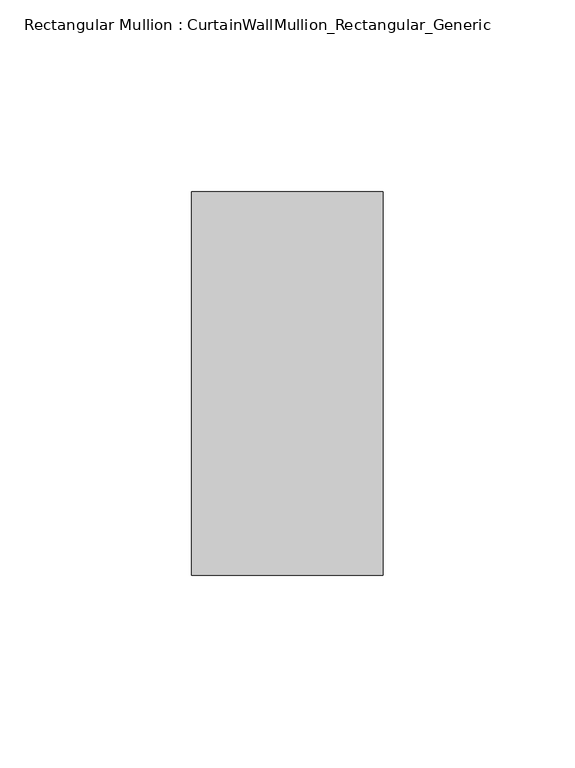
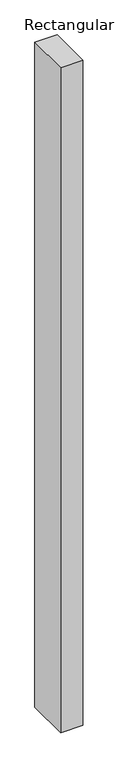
"""IFC4 building model written with IfcOpenShell, lengths in millimetres: member geometry, Rectangular Mullion : CurtainWallMullion_Rectangular_Generic."""

import ifcopenshell
import ifcopenshell.guid

model = None  # the IFC model being written
_history = None  # IfcOwnerHistory: only IFC2X3 demands one
_inside = {}  # id of a spatial element -> (the spatial element, [elements in it])
_under = {}  # id of a project, library or spatial element -> (it, [spatial elements below it])
_declared = {}  # id of a project -> (the project, [libraries it declares])
_typed = {}  # id of a type object -> (the type object, [elements of that type])
_made_of = {}  # id of a material, layer set ... -> (it, [elements and type objects made of it])


def new_model(schema):
    """Start an empty IFC model of exactly this schema.

    Asked for "IFC4X3", IfcOpenShell would pick the latest addendum, in which some entities
    have other attributes; the version numbers below select the first issue.
    IFC2X3 requires an IfcOwnerHistory on every rooted entity: one is made here for all.
    """
    global model, _history
    if schema == "IFC4X3":
        model = ifcopenshell.file(schema_version=(4, 3, 0, 0))
    else:
        model = ifcopenshell.file(schema=schema)
    _inside.clear()
    _under.clear()
    _declared.clear()
    _typed.clear()
    _made_of.clear()
    _history = None
    if model.schema == "IFC2X3":
        org = make("IfcOrganization", Name="unknown")
        user = make(
            "IfcPersonAndOrganization",
            ThePerson=make("IfcPerson", FamilyName="unknown"),
            TheOrganization=org,
        )
        app = make(
            "IfcApplication",
            ApplicationDeveloper=org,
            Version="unknown",
            ApplicationFullName="unknown",
            ApplicationIdentifier="unknown",
        )
        _history = make(
            "IfcOwnerHistory",
            OwningUser=user,
            OwningApplication=app,
            ChangeAction="ADDED",
            CreationDate=0,
        )
    return model


def make(cls, **values):
    """One entity of the class cls with the attributes given. An attribute that is None is left unset."""
    return model.create_entity(
        cls, **{name: value for name, value in values.items() if value is not None}
    )


def rooted(cls, **values):
    """An entity with a GlobalId (a new one), such as an element, a storey or a relation."""
    return make(cls, GlobalId=ifcopenshell.guid.new(), OwnerHistory=_history, **values)


def si_unit(unit_type, name, prefix=None):
    """IfcSIUnit, for example si_unit("LENGTHUNIT", "METRE", prefix="MILLI")."""
    return make("IfcSIUnit", UnitType=unit_type, Prefix=prefix, Name=name)


def assignment(units):
    """IfcUnitAssignment: the units of a project."""
    return None if units is None else make("IfcUnitAssignment", Units=units)


def point(xyz):
    """IfcCartesianPoint."""
    return None if xyz is None else make("IfcCartesianPoint", Coordinates=xyz)


def direction(xyz):
    """IfcDirection."""
    return None if xyz is None else make("IfcDirection", DirectionRatios=xyz)


def frame(location, z_axis=None, x_axis=None):
    """IfcAxis2Placement3D, a coordinate frame: its origin and axes. An axis left out is left unset."""
    return make(
        "IfcAxis2Placement3D",
        Location=point(location),
        Axis=direction(z_axis),
        RefDirection=direction(x_axis),
    )


def origin():
    """The frame at (0, 0, 0) with its axes left unset."""
    return frame((0.0, 0.0, 0.0))


def place(relative_to, where):
    """IfcLocalPlacement: puts the frame where relative to a parent placement (None: the world)."""
    return make(
        "IfcLocalPlacement", PlacementRelTo=relative_to, RelativePlacement=where
    )


def context(
    kind, dimensions, precision=None, world=None, true_north=None, identifier=None
):
    """IfcGeometricRepresentationContext, for example the 3D "Model" context."""
    return make(
        "IfcGeometricRepresentationContext",
        ContextIdentifier=identifier,
        ContextType=kind,
        CoordinateSpaceDimension=dimensions,
        Precision=precision,
        WorldCoordinateSystem=world,
        TrueNorth=true_north,
    )


def project(units=None, contexts=None):
    """IfcProject with its units and contexts."""
    return rooted(
        "IfcProject",
        Name="project",
        RepresentationContexts=contexts,
        UnitsInContext=assignment(units),
    )


def spatial(cls, under=None, at=None, **own):
    """A site, building, storey or space (cls), placed at a placement, below another one or the project."""
    s = rooted(cls, ObjectPlacement=at, **own)
    if under is not None:
        _under.setdefault(under.id(), (under, []))[1].append(s)
    return s


def polyline(points):
    """IfcPolyline through the points."""
    return make("IfcPolyline", Points=[point(p) for p in points])


def outline(outer, holes=None, kind="AREA"):
    """IfcArbitraryClosedProfileDef: a profile drawn as a closed curve; with holes, ...WithVoids."""
    if holes is None:
        return make("IfcArbitraryClosedProfileDef", ProfileType=kind, OuterCurve=outer)
    return make(
        "IfcArbitraryProfileDefWithVoids",
        ProfileType=kind,
        OuterCurve=outer,
        InnerCurves=holes,
    )


def extrude(swept, where, along, depth):
    """IfcExtrudedAreaSolid: the profile swept, set in the frame where, extruded along a direction by depth."""
    return make(
        "IfcExtrudedAreaSolid",
        SweptArea=swept,
        Position=where,
        ExtrudedDirection=direction(along),
        Depth=depth,
    )


def shape(context_of_items, identifier, shape_type, items):
    """IfcShapeRepresentation: the items that make up one representation, for example the "Body"."""
    return make(
        "IfcShapeRepresentation",
        ContextOfItems=context_of_items,
        RepresentationIdentifier=identifier,
        RepresentationType=shape_type,
        Items=items,
    )


def source(mapping_origin, context_of_items, identifier, shape_type, items):
    """IfcRepresentationMap: a shape defined once, which mapped items show again and again."""
    return make(
        "IfcRepresentationMap",
        MappingOrigin=mapping_origin,
        MappedRepresentation=shape(context_of_items, identifier, shape_type, items),
    )


def transform(
    local_origin,
    x_axis=None,
    y_axis=None,
    z_axis=None,
    scale=None,
    scale2=None,
    scale3=None,
    uniform=True,
):
    """IfcCartesianTransformationOperator3D, or its non-uniform kind. x_axis, y_axis, z_axis: its Axis1, 2, 3."""
    if uniform:
        return make(
            "IfcCartesianTransformationOperator3D",
            Axis1=direction(x_axis),
            Axis2=direction(y_axis),
            LocalOrigin=point(local_origin),
            Scale=scale,
            Axis3=direction(z_axis),
        )
    return make(
        "IfcCartesianTransformationOperator3DnonUniform",
        Axis1=direction(x_axis),
        Axis2=direction(y_axis),
        LocalOrigin=point(local_origin),
        Scale=scale,
        Axis3=direction(z_axis),
        Scale2=scale2,
        Scale3=scale3,
    )


def mapped(mapping_source, mapping_target):
    """IfcMappedItem: shows the shape of a source again, moved by a transform."""
    return make(
        "IfcMappedItem", MappingSource=mapping_source, MappingTarget=mapping_target
    )


def made_of(thing, what):
    """Note that an element or type object is made of a material, layer set ...; save() writes the relation."""
    if what is not None:
        _made_of.setdefault(what.id(), (what, []))[1].append(thing)
    return thing


def element(
    cls,
    number,
    at=None,
    inside=None,
    cuts=None,
    type_object=None,
    material=None,
    context=None,
    identifier="Body",
    shape_type=None,
    held_by="IfcProductDefinitionShape",
    body=None,
    shapes=None,
    **own,
):
    """One element of the class cls, such as IfcWall. Its Tag is "e" and its number.

    at: its placement. inside: the storey or other place that contains it. cuts: it is an
    opening in that element (IfcRelVoidsElement). A single representation is given by context,
    identifier, shape_type and body (its items); several are given by shapes. held_by: the class
    of the entity that holds the representations. save() writes the other relations.
    """
    e = rooted(cls, Tag="e%d" % number, ObjectPlacement=at, **own)
    if body is not None:
        shapes = [shape(context, identifier, shape_type, body)]
    if shapes is not None:
        e.Representation = make(held_by, Representations=shapes)
    if inside is not None:
        _inside.setdefault(inside.id(), (inside, []))[1].append(e)
    if cuts is not None:
        rooted(
            "IfcRelVoidsElement", RelatingBuildingElement=cuts, RelatedOpeningElement=e
        )
    if type_object is not None:
        _typed.setdefault(type_object.id(), (type_object, []))[1].append(e)
    return made_of(e, material)


def aggregate(whole, parts):
    """IfcRelAggregates: a whole, such as a stair, and the parts it consists of."""
    return rooted("IfcRelAggregates", RelatingObject=whole, RelatedObjects=parts)


def save(model, path):
    """Write the relations noted so far, then the file.

    IfcRelAggregates (storeys below a building ...), IfcRelContainedInSpatialStructure (elements
    in a storey), IfcRelDefinesByType, IfcRelAssociatesMaterial and IfcRelDeclares: one each for
    every whole, place, type object, material and project.
    """
    for whole, parts in _under.values():
        aggregate(whole, parts)
    for where, things in _inside.values():
        rooted(
            "IfcRelContainedInSpatialStructure",
            RelatedElements=things,
            RelatingStructure=where,
        )
    for kind, things in _typed.values():
        rooted("IfcRelDefinesByType", RelatedObjects=things, RelatingType=kind)
    for what, things in _made_of.values():
        rooted("IfcRelAssociatesMaterial", RelatedObjects=things, RelatingMaterial=what)
    for by, libraries in _declared.values():
        rooted("IfcRelDeclares", RelatingContext=by, RelatedDefinitions=libraries)
    model.write(path)


def rectangular_mullion_curtainwallmullion_rectangular_generic_facbbd22(model_context):
    return source(origin(), model_context, "Body", "SweptSolid", [
        extrude(outline(polyline([(0.0, 50.0), (0.0, -50.0), (-50.0, -50.0), (-50.0, 50.0), (0.0, 50.0)])), frame((0.0, 0.0, -1586.111111), z_axis=(0.0, 0.0, 1.0), x_axis=(1.0, 0.0, 0.0)), (0.0, 0.0, 1.0), 1586.111111),
    ])


if __name__ == "__main__":
    model = new_model("IFC4")
    model_context = context("Model", 3, world=origin())
    ifc_project = project(units=[si_unit("LENGTHUNIT", "METRE", prefix="MILLI")], contexts=[model_context])
    site = spatial("IfcSite", under=ifc_project)
    building = spatial("IfcBuilding", under=site)
    placement = place(None, origin())
    rectangular_mullion_curtainwallmullion_rectangular_generic_shape = rectangular_mullion_curtainwallmullion_rectangular_generic_facbbd22(model_context)
    element("IfcMember", 1, ObjectType="Rectangular Mullion : CurtainWallMullion_Rectangular_Generic", at=placement, inside=building, context=model_context, shape_type="MappedRepresentation", body=[
        mapped(rectangular_mullion_curtainwallmullion_rectangular_generic_shape, transform((0.0, 0.0, 0.0), x_axis=(1.0, 0.0, 0.0), y_axis=(0.0, 1.0, 0.0), z_axis=(0.0, 0.0, 1.0))),
    ])
    save(model, "model.ifc")
